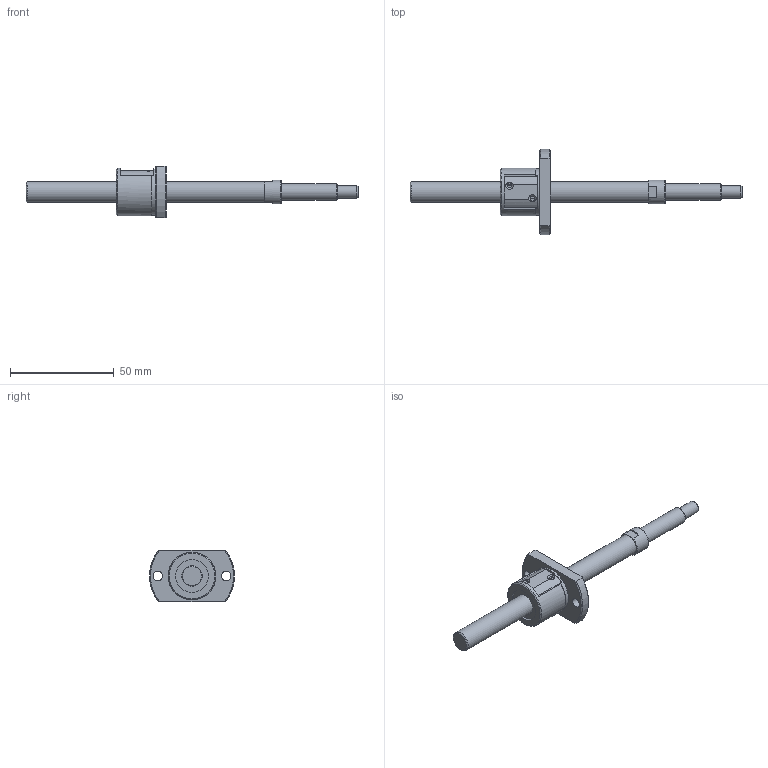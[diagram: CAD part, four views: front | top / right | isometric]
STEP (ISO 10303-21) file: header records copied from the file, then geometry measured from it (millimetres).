
FILE_DESCRIPTION(/* description */ ('STEP AP214'),/* implementation_level */ '2;1');
FILE_NAME(/* name */ 'SG1002-111R160C5A0X(43.5)',/* time_stamp */ '2026-07-24T15:12:55+02:00',/* author */ ('License CC BY-ND 4.0'),/* organization */ ('CADENAS'),/* preprocessor_version */ 'ST-DEVELOPER v20',/* originating_system */ 'PARTsolutions',/* authorisation */ ' ');
FILE_SCHEMA (('AUTOMOTIVE_DESIGN {1 0 10303 214 3 1 1}'));
Length unit declared in the file: millimetre
Products named in the file (3): SG1002-111R160C5A0X(43.5); SG1002-111R160C5A_shaft; SG1002 C5_nut
Assembly tree (2 placements, depth 2):
  SG1002-111R160C5A0X(43.5)
    SG1002-111R160C5A_shaft
    SG1002 C5_nut
Bounding box: 160 x 41 x 25 mm (x, y, z)
Volume: 21602.8 mm3; surface area: 9543.4 mm2
Topology: 2 solids, 2 shells, 72 faces, 177 edges, 116 vertices
Faces by surface type: plane 35, cylinder 23, cone 13, torus 1
Full cylindrical faces by diameter (mm): 4.5 x2, 6 x1, 8 x1, 10 x2, 11.5 x1, 16 x2, 22.6 x1, 23 x1
Entity records: 2057 total; most frequent: CARTESIAN_POINT 387, DIRECTION 346, ORIENTED_EDGE 292, EDGE_CURVE 146, AXIS2_PLACEMENT_3D 143, VERTEX_POINT 106, EDGE_LOOP 106, FACE_BOUND 106
